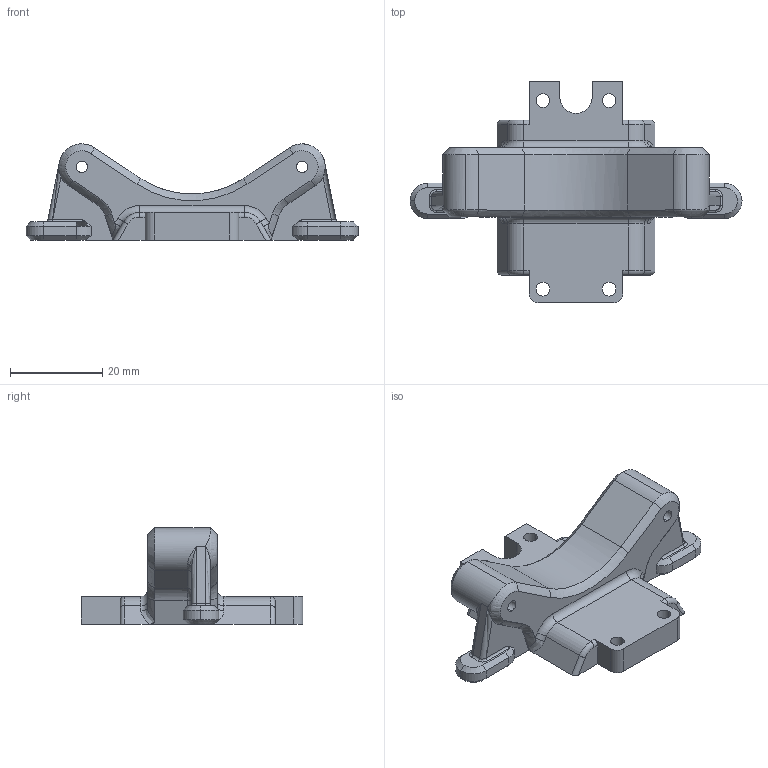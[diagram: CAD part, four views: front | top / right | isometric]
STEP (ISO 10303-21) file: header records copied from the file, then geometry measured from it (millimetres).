
FILE_DESCRIPTION (( 'STEP AP214' ), '1' );
FILE_NAME ('Îïðà Àìîðòèçàòîðîâ.STEP', '2019-03-21T14:01:39', ( '' ), ( '' ), 'SwSTEP 2.0', 'SolidWorks 2018', '' );
FILE_SCHEMA (( 'AUTOMOTIVE_DESIGN' ));
Length unit declared in the file: millimetre
Products named in the file (1): Îïðà Àìîðòèçàòîðîâ
Bounding box: 71.89 x 48.05 x 20.85 mm (x, y, z)
Volume: 16094.3 mm3; surface area: 6588 mm2
Topology: 1 solids, 1 shells, 170 faces, 429 edges, 260 vertices
Faces by surface type: cylinder 61, plane 50, bspline 31, cone 18, torus 10
Entity records: 6317 total; most frequent: CARTESIAN_POINT 2474, ORIENTED_EDGE 856, DIRECTION 703, EDGE_CURVE 428, VERTEX_POINT 260, AXIS2_PLACEMENT_3D 257, LINE 189, VECTOR 189
